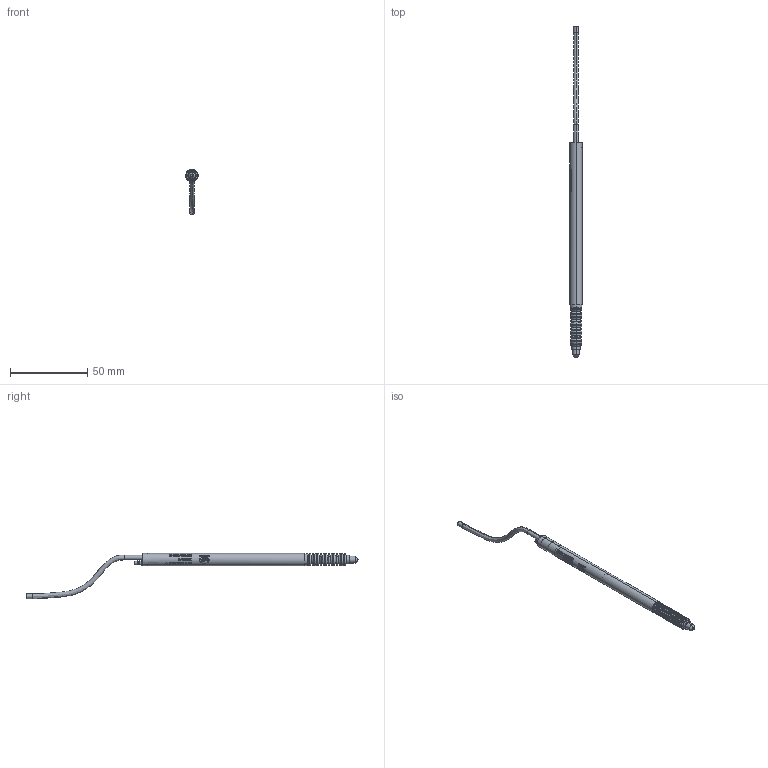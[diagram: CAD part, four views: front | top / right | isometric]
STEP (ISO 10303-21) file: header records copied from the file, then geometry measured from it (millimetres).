
FILE_DESCRIPTION((''),'2;1');
FILE_NAME('2613074','2013-04-11T',('11000205'),(''),'PRO/ENGINEER BY PARAMETRIC TECHNOLOGY CORPORATION, 2012480','PRO/ENGINEER BY PARAMETRIC TECHNOLOGY CORPORATION, 2012480','');
FILE_SCHEMA(('AUTOMOTIVE_DESIGN { 1 0 10303 214 1 1 1 1 }'));
Products named in the file (1): 2613074
Bounding box: 8 x 215.35 x 29.29 mm (x, y, z)
Volume: 2672.9 mm3; surface area: 8332.7 mm2
Topology: 1 solids, 3 shells, 1303 faces, 3334 edges, 2119 vertices
Faces by surface type: plane 821, cylinder 143, torus 138, cone 136, extrusion 35, bspline 28, sphere 2
Entity records: 54150 total; most frequent: CARTESIAN_POINT 14066, ORIENTED_EDGE 6664, DIRECTION 5574, EDGE_CURVE 3332, VERTEX_POINT 2119, AXIS2_PLACEMENT_3D 2062, VECTOR 1450, LINE 1415
